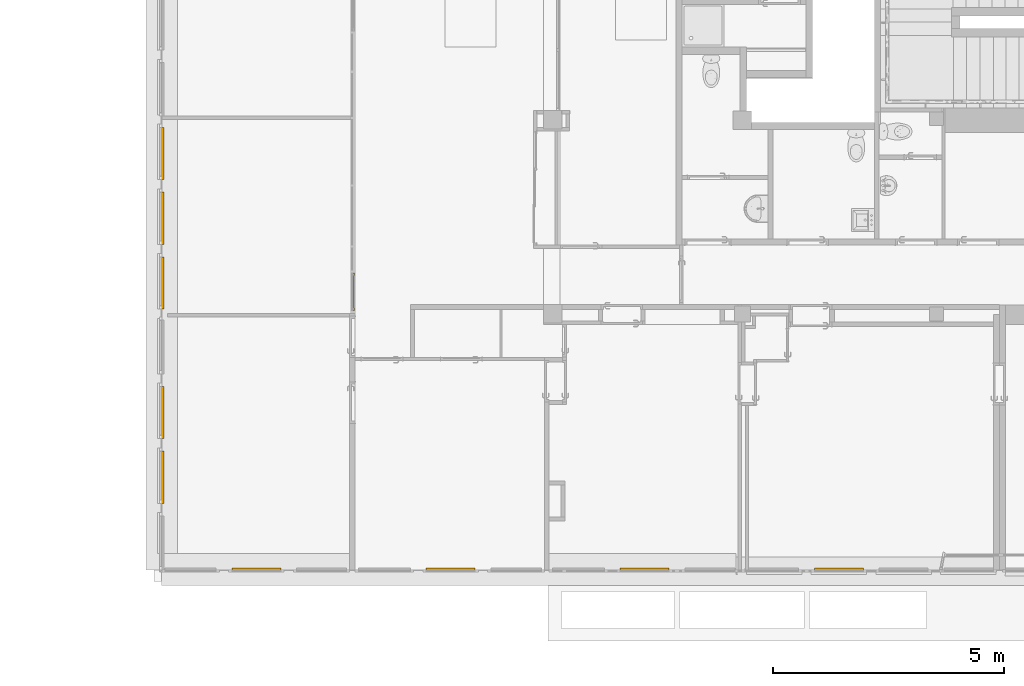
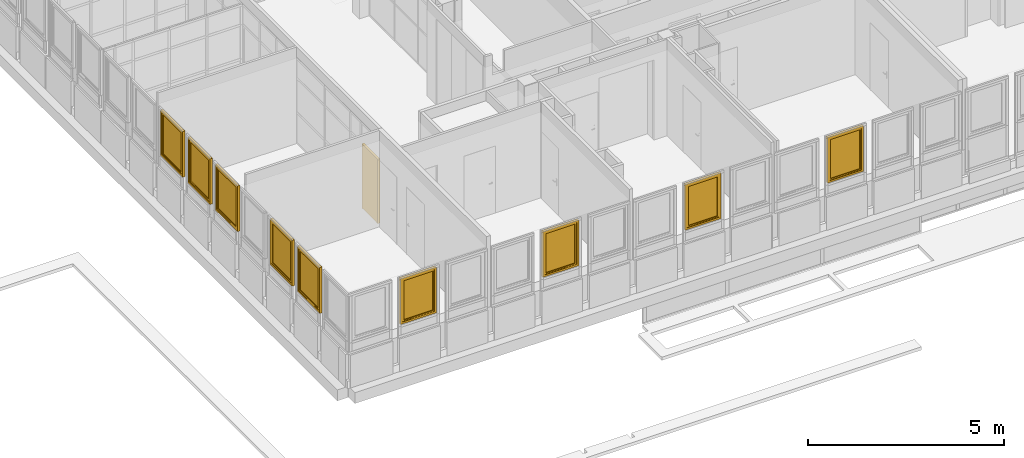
# One storey, part 84 of 97: 9 windows, 1 door, 10 elements without a shape of their own.
"""IFC4 building model written with IfcOpenShell, lengths in metres."""

import ifcopenshell
import ifcopenshell.guid

model = None  # the IFC model being written
_history = None  # IfcOwnerHistory: only IFC2X3 demands one
_inside = {}  # id of a spatial element -> (the spatial element, [elements in it])
_under = {}  # id of a project, library or spatial element -> (it, [spatial elements below it])
_declared = {}  # id of a project -> (the project, [libraries it declares])
_typed = {}  # id of a type object -> (the type object, [elements of that type])
_made_of = {}  # id of a material, layer set ... -> (it, [elements and type objects made of it])


def new_model(schema):
    """Start an empty IFC model of exactly this schema.

    Asked for "IFC4X3", IfcOpenShell would pick the latest addendum, in which some entities
    have other attributes; the version numbers below select the first issue.
    IFC2X3 requires an IfcOwnerHistory on every rooted entity: one is made here for all.
    """
    global model, _history
    if schema == "IFC4X3":
        model = ifcopenshell.file(schema_version=(4, 3, 0, 0))
    else:
        model = ifcopenshell.file(schema=schema)
    _inside.clear()
    _under.clear()
    _declared.clear()
    _typed.clear()
    _made_of.clear()
    _history = None
    if model.schema == "IFC2X3":
        org = make("IfcOrganization", Name="unknown")
        user = make(
            "IfcPersonAndOrganization",
            ThePerson=make("IfcPerson", FamilyName="unknown"),
            TheOrganization=org,
        )
        app = make(
            "IfcApplication",
            ApplicationDeveloper=org,
            Version="unknown",
            ApplicationFullName="unknown",
            ApplicationIdentifier="unknown",
        )
        _history = make(
            "IfcOwnerHistory",
            OwningUser=user,
            OwningApplication=app,
            ChangeAction="ADDED",
            CreationDate=0,
        )
    return model


def make(cls, **values):
    """One entity of the class cls with the attributes given. An attribute that is None is left unset."""
    return model.create_entity(
        cls, **{name: value for name, value in values.items() if value is not None}
    )


def entity(cls, *values):
    """Any entity or typed value of the class cls, its attributes in the order of the schema. None: left unset."""
    e = model.create_entity(cls)
    for i, value in enumerate(values):
        if value is not None:
            e[i] = value
    return e


def rooted(cls, **values):
    """An entity with a GlobalId (a new one), such as an element, a storey or a relation."""
    return make(cls, GlobalId=ifcopenshell.guid.new(), OwnerHistory=_history, **values)


def si_unit(unit_type, name, prefix=None):
    """IfcSIUnit, for example si_unit("LENGTHUNIT", "METRE", prefix="MILLI")."""
    return make("IfcSIUnit", UnitType=unit_type, Prefix=prefix, Name=name)


def converted_unit(unit_type, name, factor, base, dimensions=None, offset=None):
    """IfcConversionBasedUnit, such as the inch: factor (a typed value) times the base unit."""
    return make(
        "IfcConversionBasedUnit"
        if offset is None
        else "IfcConversionBasedUnitWithOffset",
        ConversionOffset=offset,
        Dimensions=None
        if dimensions is None
        else entity("IfcDimensionalExponents", *dimensions),
        UnitType=unit_type,
        Name=name,
        ConversionFactor=make(
            "IfcMeasureWithUnit", ValueComponent=factor, UnitComponent=base
        ),
    )


def derived_unit(unit_type, elements):
    """IfcDerivedUnit: a product of units, each with its exponent."""
    return make(
        "IfcDerivedUnit",
        Elements=[
            make("IfcDerivedUnitElement", Unit=unit, Exponent=power)
            for unit, power in elements
        ],
        UnitType=unit_type,
    )


def assignment(units):
    """IfcUnitAssignment: the units of a project."""
    return None if units is None else make("IfcUnitAssignment", Units=units)


def point(xyz):
    """IfcCartesianPoint."""
    return None if xyz is None else make("IfcCartesianPoint", Coordinates=xyz)


def direction(xyz):
    """IfcDirection."""
    return None if xyz is None else make("IfcDirection", DirectionRatios=xyz)


def frame(location, z_axis=None, x_axis=None):
    """IfcAxis2Placement3D, a coordinate frame: its origin and axes. An axis left out is left unset."""
    return make(
        "IfcAxis2Placement3D",
        Location=point(location),
        Axis=direction(z_axis),
        RefDirection=direction(x_axis),
    )


def origin():
    """The frame at (0, 0, 0) with its axes left unset."""
    return frame((0.0, 0.0, 0.0))


def place(relative_to, where):
    """IfcLocalPlacement: puts the frame where relative to a parent placement (None: the world)."""
    return make(
        "IfcLocalPlacement", PlacementRelTo=relative_to, RelativePlacement=where
    )


def context(
    kind, dimensions, precision=None, world=None, true_north=None, identifier=None
):
    """IfcGeometricRepresentationContext, for example the 3D "Model" context."""
    return make(
        "IfcGeometricRepresentationContext",
        ContextIdentifier=identifier,
        ContextType=kind,
        CoordinateSpaceDimension=dimensions,
        Precision=precision,
        WorldCoordinateSystem=world,
        TrueNorth=true_north,
    )


def subcontext(parent, identifier, kind, view, scale=None):
    """IfcGeometricRepresentationSubContext, for example "Body" below "Model"."""
    return make(
        "IfcGeometricRepresentationSubContext",
        ContextIdentifier=identifier,
        ContextType=kind,
        ParentContext=parent,
        TargetScale=scale,
        TargetView=view,
    )


def project(units=None, contexts=None):
    """IfcProject with its units and contexts."""
    return rooted(
        "IfcProject",
        Name="project",
        RepresentationContexts=contexts,
        UnitsInContext=assignment(units),
    )


def spatial(cls, under=None, at=None, **own):
    """A site, building, storey or space (cls), placed at a placement, below another one or the project."""
    s = rooted(cls, ObjectPlacement=at, **own)
    if under is not None:
        _under.setdefault(under.id(), (under, []))[1].append(s)
    return s


def point_list(points):
    """IfcCartesianPointList2D or 3D."""
    cls = (
        "IfcCartesianPointList2D" if len(points[0]) == 2 else "IfcCartesianPointList3D"
    )
    return make(cls, CoordList=points)


def indexed_curve(points, segments=None, self_intersect=None):
    """IfcIndexedPolyCurve: lines and arcs through numbered points (the first is 1)."""
    return make(
        "IfcIndexedPolyCurve",
        Points=point_list(points),
        Segments=segments,
        SelfIntersect=self_intersect,
    )


def outline(outer, holes=None, kind="AREA"):
    """IfcArbitraryClosedProfileDef: a profile drawn as a closed curve; with holes, ...WithVoids."""
    if holes is None:
        return make("IfcArbitraryClosedProfileDef", ProfileType=kind, OuterCurve=outer)
    return make(
        "IfcArbitraryProfileDefWithVoids",
        ProfileType=kind,
        OuterCurve=outer,
        InnerCurves=holes,
    )


def extrude(swept, where, along, depth):
    """IfcExtrudedAreaSolid: the profile swept, set in the frame where, extruded along a direction by depth."""
    return make(
        "IfcExtrudedAreaSolid",
        SweptArea=swept,
        Position=where,
        ExtrudedDirection=direction(along),
        Depth=depth,
    )


def polygons(points, faces, closed=None, point_numbers=None):
    """IfcPolygonalFaceSet: a face is its outer loop, then its inner loops; points numbered from 1."""
    made = []
    for loops in faces:
        if len(loops) == 1:
            made.append(make("IfcIndexedPolygonalFace", CoordIndex=loops[0]))
        else:
            made.append(
                make(
                    "IfcIndexedPolygonalFaceWithVoids",
                    CoordIndex=loops[0],
                    InnerCoordIndices=loops[1:],
                )
            )
    return make(
        "IfcPolygonalFaceSet",
        Coordinates=point_list(points),
        Closed=closed,
        Faces=made,
        PnIndex=point_numbers,
    )


def shape(context_of_items, identifier, shape_type, items):
    """IfcShapeRepresentation: the items that make up one representation, for example the "Body"."""
    return make(
        "IfcShapeRepresentation",
        ContextOfItems=context_of_items,
        RepresentationIdentifier=identifier,
        RepresentationType=shape_type,
        Items=items,
    )


def source(mapping_origin, context_of_items, identifier, shape_type, items):
    """IfcRepresentationMap: a shape defined once, which mapped items show again and again."""
    return make(
        "IfcRepresentationMap",
        MappingOrigin=mapping_origin,
        MappedRepresentation=shape(context_of_items, identifier, shape_type, items),
    )


def transform(
    local_origin,
    x_axis=None,
    y_axis=None,
    z_axis=None,
    scale=None,
    scale2=None,
    scale3=None,
    uniform=True,
):
    """IfcCartesianTransformationOperator3D, or its non-uniform kind. x_axis, y_axis, z_axis: its Axis1, 2, 3."""
    if uniform:
        return make(
            "IfcCartesianTransformationOperator3D",
            Axis1=direction(x_axis),
            Axis2=direction(y_axis),
            LocalOrigin=point(local_origin),
            Scale=scale,
            Axis3=direction(z_axis),
        )
    return make(
        "IfcCartesianTransformationOperator3DnonUniform",
        Axis1=direction(x_axis),
        Axis2=direction(y_axis),
        LocalOrigin=point(local_origin),
        Scale=scale,
        Axis3=direction(z_axis),
        Scale2=scale2,
        Scale3=scale3,
    )


def mapped(mapping_source, mapping_target):
    """IfcMappedItem: shows the shape of a source again, moved by a transform."""
    return make(
        "IfcMappedItem", MappingSource=mapping_source, MappingTarget=mapping_target
    )


def material(Name=None, Category=None):
    """IfcMaterial."""
    return make("IfcMaterial", Name=Name, Category=Category)


def material_list(materials):
    """IfcMaterialList."""
    return make("IfcMaterialList", Materials=materials)


def constituent(of_material, Name=None, Category=None, fraction=None):
    """IfcMaterialConstituent: one of the materials an element consists of."""
    return make(
        "IfcMaterialConstituent",
        Name=Name,
        Material=of_material,
        Fraction=fraction,
        Category=Category,
    )


def constituent_set(constituents=None, Name=None):
    """IfcMaterialConstituentSet."""
    return make(
        "IfcMaterialConstituentSet", Name=Name, MaterialConstituents=constituents
    )


def made_of(thing, what):
    """Note that an element or type object is made of a material, layer set ...; save() writes the relation."""
    if what is not None:
        _made_of.setdefault(what.id(), (what, []))[1].append(thing)
    return thing


def type_object(cls, material=None, **own):
    """A type object (cls), such as IfcWallType, which elements share."""
    return made_of(rooted(cls, **own), material)


def type_shapes(of_type, sources):
    """Give a type object the sources (RepresentationMaps) that its elements show as mapped items."""
    of_type.RepresentationMaps = sources


def element(
    cls,
    number,
    at=None,
    inside=None,
    cuts=None,
    type_object=None,
    material=None,
    context=None,
    identifier="Body",
    shape_type=None,
    held_by="IfcProductDefinitionShape",
    body=None,
    shapes=None,
    **own,
):
    """One element of the class cls, such as IfcWall. Its Tag is "e" and its number.

    at: its placement. inside: the storey or other place that contains it. cuts: it is an
    opening in that element (IfcRelVoidsElement). A single representation is given by context,
    identifier, shape_type and body (its items); several are given by shapes. held_by: the class
    of the entity that holds the representations. save() writes the other relations.
    """
    e = rooted(cls, Tag="e%d" % number, ObjectPlacement=at, **own)
    if body is not None:
        shapes = [shape(context, identifier, shape_type, body)]
    if shapes is not None:
        e.Representation = make(held_by, Representations=shapes)
    if inside is not None:
        _inside.setdefault(inside.id(), (inside, []))[1].append(e)
    if cuts is not None:
        rooted(
            "IfcRelVoidsElement", RelatingBuildingElement=cuts, RelatedOpeningElement=e
        )
    if type_object is not None:
        _typed.setdefault(type_object.id(), (type_object, []))[1].append(e)
    return made_of(e, material)


def aggregate(whole, parts):
    """IfcRelAggregates: a whole, such as a stair, and the parts it consists of."""
    return rooted("IfcRelAggregates", RelatingObject=whole, RelatedObjects=parts)


def save(model, path):
    """Write the relations noted so far, then the file.

    IfcRelAggregates (storeys below a building ...), IfcRelContainedInSpatialStructure (elements
    in a storey), IfcRelDefinesByType, IfcRelAssociatesMaterial and IfcRelDeclares: one each for
    every whole, place, type object, material and project.
    """
    for whole, parts in _under.values():
        aggregate(whole, parts)
    for where, things in _inside.values():
        rooted(
            "IfcRelContainedInSpatialStructure",
            RelatedElements=things,
            RelatingStructure=where,
        )
    for kind, things in _typed.values():
        rooted("IfcRelDefinesByType", RelatedObjects=things, RelatingType=kind)
    for what, things in _made_of.values():
        rooted("IfcRelAssociatesMaterial", RelatedObjects=things, RelatingMaterial=what)
    for by, libraries in _declared.values():
        rooted("IfcRelDeclares", RelatingContext=by, RelatedDefinitions=libraries)
    model.write(path)


model = new_model("IFC4")

# Units and contexts
model_context = context("Model", 3, precision=1e-05, world=origin(), true_north=direction((6.12303176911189e-17, 1.0)))
body_context = subcontext(model_context, "Body", "Model", "MODEL_VIEW")
ifc_project = project(units=[si_unit("LENGTHUNIT", "METRE"), si_unit("AREAUNIT", "SQUARE_METRE"), si_unit("VOLUMEUNIT", "CUBIC_METRE"), converted_unit("PLANEANGLEUNIT", "DEGREE", entity("IfcRatioMeasure", 0.0174532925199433), si_unit("PLANEANGLEUNIT", "RADIAN"), dimensions=[0, 0, 0, 0, 0, 0, 0]), si_unit("MASSUNIT", "GRAM", prefix="KILO"), derived_unit("MASSDENSITYUNIT", [(si_unit("MASSUNIT", "GRAM", prefix="KILO"), 1), (si_unit("LENGTHUNIT", "METRE"), -3)]), derived_unit("MOMENTOFINERTIAUNIT", [(si_unit("LENGTHUNIT", "METRE"), 4)]), si_unit("TIMEUNIT", "SECOND"), si_unit("FREQUENCYUNIT", "HERTZ"), si_unit("THERMODYNAMICTEMPERATUREUNIT", "DEGREE_CELSIUS"), derived_unit("THERMALTRANSMITTANCEUNIT", [(si_unit("MASSUNIT", "GRAM", prefix="KILO"), 1), (si_unit("THERMODYNAMICTEMPERATUREUNIT", "KELVIN"), -1), (si_unit("TIMEUNIT", "SECOND"), -3)]), derived_unit("VOLUMETRICFLOWRATEUNIT", [(si_unit("LENGTHUNIT", "METRE"), 3), (si_unit("TIMEUNIT", "SECOND"), -1)]), si_unit("ELECTRICCURRENTUNIT", "AMPERE"), si_unit("ELECTRICVOLTAGEUNIT", "VOLT"), si_unit("POWERUNIT", "WATT"), si_unit("FORCEUNIT", "NEWTON", prefix="KILO"), si_unit("ILLUMINANCEUNIT", "LUX"), si_unit("LUMINOUSFLUXUNIT", "LUMEN"), si_unit("LUMINOUSINTENSITYUNIT", "CANDELA"), derived_unit("USERDEFINED", [(si_unit("MASSUNIT", "GRAM", prefix="KILO"), -1), (si_unit("LENGTHUNIT", "METRE"), -2), (si_unit("TIMEUNIT", "SECOND"), 3), (si_unit("LUMINOUSFLUXUNIT", "LUMEN"), 1)]), derived_unit("LINEARVELOCITYUNIT", [(si_unit("LENGTHUNIT", "METRE"), 1), (si_unit("TIMEUNIT", "SECOND"), -1)]), si_unit("PRESSUREUNIT", "PASCAL"), derived_unit("USERDEFINED", [(si_unit("LENGTHUNIT", "METRE"), -2), (si_unit("MASSUNIT", "GRAM", prefix="KILO"), 1), (si_unit("TIMEUNIT", "SECOND"), -2)]), derived_unit("LINEARFORCEUNIT", [(si_unit("MASSUNIT", "GRAM", prefix="KILO"), 1), (si_unit("LENGTHUNIT", "METRE"), 1), (si_unit("TIMEUNIT", "SECOND"), -2), (si_unit("LENGTHUNIT", "METRE"), -1)]), derived_unit("PLANARFORCEUNIT", [(si_unit("MASSUNIT", "GRAM", prefix="KILO"), 1), (si_unit("LENGTHUNIT", "METRE"), 1), (si_unit("TIMEUNIT", "SECOND"), -2), (si_unit("LENGTHUNIT", "METRE"), -2)])], contexts=[model_context])

# Site, building, storey
site_placement = place(None, origin())
site = spatial("IfcSite", under=ifc_project, at=site_placement, Name="Default", CompositionType="ELEMENT")
building_placement = place(site_placement, origin())
building = spatial("IfcBuilding", under=site, at=building_placement, Name="HOTEL CONSULAIRE BOULOGNE SUR MER", CompositionType="ELEMENT")
storey_placement = place(building_placement, frame((0.0, 0.0, 3.62152697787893)))
storey = spatial("IfcBuildingStorey", under=building, at=storey_placement, Name="Niveau 1", CompositionType="ELEMENT", Elevation=3.62152697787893)

# Curtain wall, window
curtain_wall_type = type_object("IfcCurtainWallType", Name="Mur-rideau:Simple panneau", PredefinedType="NOTDEFINED")
curtain_wall_1_placement = place(storey_placement, frame((0.0, 0.0, -3.62152697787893)))
curtain_wall_1 = element("IfcCurtainWall", 1, at=curtain_wall_1_placement, inside=storey, type_object=curtain_wall_type, Name="Mur-rideau:Simple panneau", ObjectType="Mur-rideau:Simple panneau", PredefinedType="NOTDEFINED")
ifc_material_1 = material(Name="PVC - Blanc", Category="Plastique")
ifc_constituent_1 = constituent(ifc_material_1, Name="PVC - Blanc", Category="Matériaux")
ifc_material_2 = material(Name="Fenêtre - Vitrage", Category="Verre")
ifc_constituent_2 = constituent(ifc_material_2, Name="Fenêtre - Vitrage", Category="Matériaux")
ifc_constituent_set_1 = constituent_set(constituents=[ifc_constituent_1, ifc_constituent_2], Name="MaterialConstituentSet")
ifc_material_list_1 = material_list([ifc_material_1, ifc_material_1])
window_type_1 = type_object("IfcWindowType", Name="MR 1 Vantail:MR 1 Vantail", PartitioningType="NOTDEFINED", PredefinedType="WINDOW", material=ifc_material_list_1)
shared_shape_1 = source(origin(), body_context, "Body", "Tessellation", [
    polygons([(-0.495646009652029, -0.0492408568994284, 0.472033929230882), (-0.484353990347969, -0.0492408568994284, 0.472033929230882), (-0.482966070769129, -0.0492408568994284, 0.470646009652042), (-0.482966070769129, -0.0492408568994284, 0.459332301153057), (-0.484332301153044, -0.0492408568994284, 0.457966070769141), (-0.495667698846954, -0.0492408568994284, 0.457966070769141), (-0.497033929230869, -0.0492408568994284, 0.459332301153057), (-0.497033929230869, -0.0492408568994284, 0.470646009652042), (-0.497033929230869, -0.0615795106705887, 0.470646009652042), (-0.495646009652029, -0.0621544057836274, 0.472033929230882), (-0.497033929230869, -0.0568932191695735, 0.459332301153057), (-0.497033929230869, -0.0635731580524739, 0.452652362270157), (-0.497033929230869, -0.0635731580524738, 0.370000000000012), (-0.497033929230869, -0.0748868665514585, 0.370000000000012), (-0.497033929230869, -0.0748868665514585, 0.457338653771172), (-0.495667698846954, -0.0563273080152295, 0.457966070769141), (-0.484332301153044, -0.0563273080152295, 0.457966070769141), (-0.482966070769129, -0.0568932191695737, 0.459332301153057), (-0.482966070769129, -0.0615795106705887, 0.470646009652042), (-0.482966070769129, -0.0748868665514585, 0.457338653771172), (-0.482966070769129, -0.0748868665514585, 0.370000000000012), (-0.482966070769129, -0.0635731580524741, 0.370000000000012), (-0.482966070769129, -0.0635731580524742, 0.452652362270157), (-0.484353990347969, -0.0621544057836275, 0.472033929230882), (-0.495646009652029, -0.0762747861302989, 0.457913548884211), (-0.495667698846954, -0.0622069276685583, 0.452086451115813), (-0.484332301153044, -0.0622069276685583, 0.452086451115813), (-0.484353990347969, -0.0762747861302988, 0.457913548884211), (-0.495646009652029, -0.0762747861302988, 0.370000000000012), (-0.495667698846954, -0.0622069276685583, 0.370000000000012), (-0.484332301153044, -0.0622069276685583, 0.370000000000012), (-0.484353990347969, -0.0762747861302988, 0.370000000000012)], [[[6, 7, 8, 1, 2, 3, 4, 5]], [[30, 26, 27, 31]], [[9, 10, 1, 8]], [[11, 12, 13, 14, 15, 9, 8, 7]], [[16, 11, 7, 6]], [[16, 6, 5, 17]], [[31, 22, 21, 32, 29, 14, 13, 30]], [[17, 5, 4, 18]], [[3, 19, 20, 21, 22, 23, 18, 4]], [[19, 3, 2, 24]], [[24, 2, 1, 10]], [[15, 25, 10, 9]], [[26, 12, 11, 16]], [[27, 26, 16, 17]], [[27, 17, 18, 23]], [[20, 19, 24, 28]], [[28, 24, 10, 25]], [[29, 25, 15, 14]], [[13, 12, 26, 30]], [[22, 31, 27, 23]], [[32, 21, 20, 28]], [[32, 28, 25, 29]]], closed=True),
    polygons([(-0.497000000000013, -0.0432408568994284, 0.490000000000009), (-0.482999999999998, -0.0432408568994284, 0.490000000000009), (-0.477999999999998, -0.0432408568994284, 0.48500000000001), (-0.477999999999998, -0.0432408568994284, 0.414999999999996), (-0.482999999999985, -0.0432408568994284, 0.410000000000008), (-0.497000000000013, -0.0432408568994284, 0.410000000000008), (-0.501999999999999, -0.0432408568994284, 0.414999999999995), (-0.501999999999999, -0.0432408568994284, 0.48500000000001), (-0.497000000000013, -0.0492408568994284, 0.490000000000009), (-0.501999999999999, -0.0492408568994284, 0.48500000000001), (-0.501999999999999, -0.0492408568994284, 0.414999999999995), (-0.497000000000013, -0.0492408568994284, 0.410000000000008), (-0.482999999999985, -0.0492408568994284, 0.410000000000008), (-0.477999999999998, -0.0492408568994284, 0.414999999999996), (-0.477999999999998, -0.0492408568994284, 0.48500000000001), (-0.482999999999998, -0.0492408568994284, 0.490000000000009)], [[[2, 3, 4, 5, 6, 7, 8, 1]], [[13, 14, 15, 16, 9, 10, 11, 12]], [[9, 1, 8, 10]], [[10, 8, 7, 11]], [[11, 7, 6, 12]], [[12, 6, 5, 13]], [[13, 5, 4, 14]], [[15, 14, 4, 3]], [[15, 3, 2, 16]], [[16, 2, 1, 9]]], closed=True),
    polygons([(0.465000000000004, -0.0192408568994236, 1.32586048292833), (-0.465000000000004, -0.0192408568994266, 1.32586048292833), (-0.465000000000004, -0.0192408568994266, 0.0999999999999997), (0.465000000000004, -0.0192408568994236, 0.0999999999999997), (0.465000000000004, -0.00724085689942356, 1.32586048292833), (0.465000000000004, -0.00724085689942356, 0.0999999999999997), (-0.465000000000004, -0.00724085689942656, 0.0999999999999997), (-0.465000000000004, -0.00724085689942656, 1.32586048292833)], [[[4, 1, 2, 3]], [[7, 8, 5, 6]], [[2, 1, 5, 8]], [[3, 2, 8, 7]], [[4, 3, 7, 6]], [[1, 4, 6, 5]]], closed=True),
    polygons([(-0.515000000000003, 0.0167591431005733, 1.37586048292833), (-0.515000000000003, -0.043240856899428, 1.37586048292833), (0.515000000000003, -0.043240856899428, 1.37586048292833), (0.515000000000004, 0.0167591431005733, 1.37586048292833), (-0.465000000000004, -0.043240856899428, 1.32586048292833), (-0.465000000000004, 0.0167591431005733, 1.32586048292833), (0.465000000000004, 0.0167591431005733, 1.32586048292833), (0.465000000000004, -0.043240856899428, 1.32586048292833), (0.515000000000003, -0.043240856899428, 0.0500000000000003), (0.515000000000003, 0.0167591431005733, 0.0500000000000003), (0.465000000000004, 0.0167591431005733, 0.0999999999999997), (0.465000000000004, -0.043240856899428, 0.0999999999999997), (-0.515000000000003, -0.043240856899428, 0.0500000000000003), (-0.515000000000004, 0.0167591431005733, 0.0500000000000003), (-0.465000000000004, 0.0167591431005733, 0.0999999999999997), (-0.465000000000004, -0.043240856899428, 0.0999999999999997)], [[[1, 2, 3, 4]], [[12, 11, 15, 16]], [[5, 6, 7, 8]], [[10, 9, 13, 14]], [[4, 3, 9, 10]], [[16, 15, 6, 5]], [[8, 7, 11, 12]], [[14, 13, 2, 1]], [[9, 3, 2, 13], [16, 5, 8, 12]], [[14, 1, 4, 10], [11, 7, 6, 15]]], closed=True),
    polygons([(-0.505000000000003, 0.016759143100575, 1.36586048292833), (-0.505000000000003, 0.0267591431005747, 1.36586048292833), (0.505000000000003, 0.0267591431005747, 1.36586048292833), (0.505000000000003, 0.016759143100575, 1.36586048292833), (-0.515000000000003, -0.0432408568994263, 1.37586048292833), (-0.515000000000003, 0.016759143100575, 1.37586048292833), (0.515000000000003, 0.016759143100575, 1.37586048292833), (0.515000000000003, -0.0432408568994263, 1.37586048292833), (-0.565000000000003, 0.0267591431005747, 1.42586048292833), (-0.565000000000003, -0.0432408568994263, 1.42586048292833), (0.565000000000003, -0.0432408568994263, 1.42586048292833), (0.565000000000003, 0.0267591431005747, 1.42586048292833), (0.505000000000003, 0.0267591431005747, 0.0600000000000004), (0.505000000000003, 0.016759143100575, 0.0600000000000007), (0.515000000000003, 0.016759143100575, 0.0500000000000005), (0.515000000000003, -0.0432408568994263, 0.0500000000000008), (0.565000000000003, -0.0432408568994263, 5.41433564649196e-16), (0.565000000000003, 0.0267591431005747, 5.41433564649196e-16), (-0.505000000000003, 0.0267591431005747, 0.0600000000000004), (-0.505000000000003, 0.016759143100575, 0.0600000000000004), (-0.515000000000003, 0.016759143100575, 0.0500000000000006), (-0.515000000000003, -0.0432408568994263, 0.0500000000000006), (-0.565000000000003, -0.0432408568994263, 5.41433564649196e-16), (-0.565000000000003, 0.0267591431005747, 5.41433564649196e-16)], [[[1, 2, 3, 4]], [[5, 6, 7, 8]], [[18, 17, 23, 24]], [[9, 10, 11, 12]], [[14, 13, 19, 20]], [[16, 15, 21, 22]], [[4, 3, 13, 14]], [[8, 7, 15, 16]], [[24, 23, 10, 9]], [[12, 11, 17, 18]], [[20, 19, 2, 1]], [[22, 21, 6, 5]], [[24, 9, 12, 18], [13, 3, 2, 19]], [[15, 7, 6, 21], [20, 1, 4, 14]], [[17, 11, 10, 23], [22, 5, 8, 16]]], closed=True),
])
type_shapes(window_type_1, [shared_shape_1])
window_1_placement = place(curtain_wall_1_placement, frame((-13.7870998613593, -20.5464499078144, 4.79613951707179), z_axis=(0.0, 0.0, 1.0), x_axis=(0.0, 1.0, 0.0)))
window_1 = element("IfcWindow", 2, at=window_1_placement, type_object=window_type_1, material=ifc_constituent_set_1, Name="MR 1 Vantail:MR 1 Vantail", ObjectType="MR 1 Vantail:MR 1 Vantail", OverallHeight=1.42586048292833, OverallWidth=1.13000000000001, PartitioningType="NOTDEFINED", PredefinedType="WINDOW", context=body_context, shape_type="MappedRepresentation", body=[
    mapped(shared_shape_1, transform((0.0, 0.0, 0.0), scale=1.0)),
])
aggregate(curtain_wall_1, [window_1])

curtain_wall_2_placement = place(storey_placement, frame((0.0, 0.0, -3.62152697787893)))
curtain_wall_2 = element("IfcCurtainWall", 3, at=curtain_wall_2_placement, inside=storey, type_object=curtain_wall_type, Name="Mur-rideau:Simple panneau", ObjectType="Mur-rideau:Simple panneau", PredefinedType="NOTDEFINED")
ifc_constituent_3 = constituent(ifc_material_1, Name="PVC - Blanc", Category="Matériaux")
ifc_constituent_4 = constituent(ifc_material_2, Name="Fenêtre - Vitrage", Category="Matériaux")
ifc_constituent_set_2 = constituent_set(constituents=[ifc_constituent_3, ifc_constituent_4], Name="MaterialConstituentSet")
window_2_placement = place(curtain_wall_2_placement, frame((-13.7870998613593, -21.9464499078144, 4.79613951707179), z_axis=(0.0, 0.0, 1.0), x_axis=(0.0, 1.0, 0.0)))
window_2 = element("IfcWindow", 4, at=window_2_placement, type_object=window_type_1, material=ifc_constituent_set_2, Name="MR 1 Vantail:MR 1 Vantail", ObjectType="MR 1 Vantail:MR 1 Vantail", OverallHeight=1.42586048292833, OverallWidth=1.13000000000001, PartitioningType="NOTDEFINED", PredefinedType="WINDOW", context=body_context, shape_type="MappedRepresentation", body=[
    mapped(shared_shape_1, transform((0.0, 0.0, 0.0), scale=1.0)),
])
aggregate(curtain_wall_2, [window_2])

curtain_wall_3_placement = place(storey_placement, frame((0.0, 0.0, -3.62152697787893)))
curtain_wall_3 = element("IfcCurtainWall", 5, at=curtain_wall_3_placement, inside=storey, type_object=curtain_wall_type, Name="Mur-rideau:Simple panneau", ObjectType="Mur-rideau:Simple panneau", PredefinedType="NOTDEFINED")
ifc_constituent_5 = constituent(ifc_material_1, Name="PVC - Blanc", Category="Matériaux")
ifc_constituent_6 = constituent(ifc_material_2, Name="Fenêtre - Vitrage", Category="Matériaux")
ifc_constituent_set_3 = constituent_set(constituents=[ifc_constituent_5, ifc_constituent_6], Name="MaterialConstituentSet")
window_3_placement = place(curtain_wall_3_placement, frame((-13.7870998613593, -23.3464499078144, 4.79613951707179), z_axis=(0.0, 0.0, 1.0), x_axis=(0.0, 1.0, 0.0)))
window_3 = element("IfcWindow", 6, at=window_3_placement, type_object=window_type_1, material=ifc_constituent_set_3, Name="MR 1 Vantail:MR 1 Vantail", ObjectType="MR 1 Vantail:MR 1 Vantail", OverallHeight=1.42586048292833, OverallWidth=1.13000000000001, PartitioningType="NOTDEFINED", PredefinedType="WINDOW", context=body_context, shape_type="MappedRepresentation", body=[
    mapped(shared_shape_1, transform((0.0, 0.0, 0.0), scale=1.0)),
])
aggregate(curtain_wall_3, [window_3])

curtain_wall_4_placement = place(storey_placement, frame((0.0, 0.0, -3.62152697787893)))
curtain_wall_4 = element("IfcCurtainWall", 7, at=curtain_wall_4_placement, inside=storey, type_object=curtain_wall_type, Name="Mur-rideau:Simple panneau", ObjectType="Mur-rideau:Simple panneau", PredefinedType="NOTDEFINED")
ifc_constituent_7 = constituent(ifc_material_1, Name="PVC - Blanc", Category="Matériaux")
ifc_constituent_8 = constituent(ifc_material_2, Name="Fenêtre - Vitrage", Category="Matériaux")
ifc_constituent_set_4 = constituent_set(constituents=[ifc_constituent_7, ifc_constituent_8], Name="MaterialConstituentSet")
window_4_placement = place(curtain_wall_4_placement, frame((-13.7870998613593, -26.1464499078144, 4.79613951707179), z_axis=(0.0, 0.0, 1.0), x_axis=(0.0, 1.0, 0.0)))
window_4 = element("IfcWindow", 8, at=window_4_placement, type_object=window_type_1, material=ifc_constituent_set_4, Name="MR 1 Vantail:MR 1 Vantail", ObjectType="MR 1 Vantail:MR 1 Vantail", OverallHeight=1.42586048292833, OverallWidth=1.13000000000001, PartitioningType="NOTDEFINED", PredefinedType="WINDOW", context=body_context, shape_type="MappedRepresentation", body=[
    mapped(shared_shape_1, transform((0.0, 0.0, 0.0), scale=1.0)),
])
aggregate(curtain_wall_4, [window_4])

curtain_wall_5_placement = place(storey_placement, frame((0.0, 0.0, -3.62152697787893)))
curtain_wall_5 = element("IfcCurtainWall", 9, at=curtain_wall_5_placement, inside=storey, type_object=curtain_wall_type, Name="Mur-rideau:Simple panneau", ObjectType="Mur-rideau:Simple panneau", PredefinedType="NOTDEFINED")
ifc_constituent_9 = constituent(ifc_material_1, Name="PVC - Blanc", Category="Matériaux")
ifc_constituent_10 = constituent(ifc_material_2, Name="Fenêtre - Vitrage", Category="Matériaux")
ifc_constituent_set_5 = constituent_set(constituents=[ifc_constituent_9, ifc_constituent_10], Name="MaterialConstituentSet")
window_5_placement = place(curtain_wall_5_placement, frame((-13.7870998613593, -27.5464499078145, 4.79613951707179), z_axis=(0.0, 0.0, 1.0), x_axis=(0.0, 1.0, 0.0)))
window_5 = element("IfcWindow", 10, at=window_5_placement, type_object=window_type_1, material=ifc_constituent_set_5, Name="MR 1 Vantail:MR 1 Vantail", ObjectType="MR 1 Vantail:MR 1 Vantail", OverallHeight=1.42586048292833, OverallWidth=1.13000000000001, PartitioningType="NOTDEFINED", PredefinedType="WINDOW", context=body_context, shape_type="MappedRepresentation", body=[
    mapped(shared_shape_1, transform((0.0, 0.0, 0.0), scale=1.0)),
])
aggregate(curtain_wall_5, [window_5])

curtain_wall_6_placement = place(storey_placement, frame((0.0, 0.0, -3.62152697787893)))
curtain_wall_6 = element("IfcCurtainWall", 11, at=curtain_wall_6_placement, inside=storey, type_object=curtain_wall_type, Name="Mur-rideau:Simple panneau", ObjectType="Mur-rideau:Simple panneau", PredefinedType="NOTDEFINED")
ifc_constituent_11 = constituent(ifc_material_1, Name="PVC - Blanc", Category="Matériaux")
ifc_constituent_12 = constituent(ifc_material_2, Name="Fenêtre - Vitrage", Category="Matériaux")
ifc_constituent_set_6 = constituent_set(constituents=[ifc_constituent_11, ifc_constituent_12], Name="MaterialConstituentSet")
ifc_material_list_2 = material_list([ifc_material_1, ifc_material_1])
window_type_2 = type_object("IfcWindowType", Name="MR 1 Vantail:MR 1 Vantail", PartitioningType="NOTDEFINED", PredefinedType="WINDOW", material=ifc_material_list_2)
shared_shape_2 = source(origin(), body_context, "Body", "Tessellation", [
    polygons([(-0.460646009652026, -0.0492408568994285, 0.472033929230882), (-0.449353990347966, -0.0492408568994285, 0.472033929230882), (-0.447966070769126, -0.0492408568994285, 0.470646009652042), (-0.447966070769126, -0.0492408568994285, 0.459332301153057), (-0.449332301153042, -0.0492408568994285, 0.457966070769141), (-0.460667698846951, -0.0492408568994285, 0.457966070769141), (-0.462033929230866, -0.0492408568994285, 0.459332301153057), (-0.462033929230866, -0.0492408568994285, 0.470646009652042), (-0.462033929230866, -0.0615795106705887, 0.470646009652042), (-0.460646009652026, -0.0621544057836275, 0.472033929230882), (-0.462033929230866, -0.0568932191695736, 0.459332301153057), (-0.462033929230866, -0.063573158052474, 0.452652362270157), (-0.462033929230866, -0.0635731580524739, 0.370000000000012), (-0.462033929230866, -0.0748868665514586, 0.370000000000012), (-0.462033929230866, -0.0748868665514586, 0.457338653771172), (-0.460667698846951, -0.0563273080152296, 0.457966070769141), (-0.449332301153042, -0.0563273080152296, 0.457966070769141), (-0.447966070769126, -0.0568932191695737, 0.459332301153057), (-0.447966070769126, -0.0615795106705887, 0.470646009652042), (-0.447966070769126, -0.0748868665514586, 0.457338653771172), (-0.447966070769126, -0.0748868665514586, 0.370000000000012), (-0.447966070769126, -0.0635731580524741, 0.370000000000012), (-0.447966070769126, -0.0635731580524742, 0.452652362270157), (-0.449353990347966, -0.0621544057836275, 0.472033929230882), (-0.460646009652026, -0.0762747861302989, 0.457913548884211), (-0.460667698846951, -0.0622069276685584, 0.452086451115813), (-0.449332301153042, -0.0622069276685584, 0.452086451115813), (-0.449353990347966, -0.0762747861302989, 0.457913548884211), (-0.460646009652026, -0.0762747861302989, 0.370000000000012), (-0.460667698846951, -0.0622069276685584, 0.370000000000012), (-0.449332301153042, -0.0622069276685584, 0.370000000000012), (-0.449353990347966, -0.0762747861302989, 0.370000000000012)], [[[6, 7, 8, 1, 2, 3, 4, 5]], [[30, 26, 27, 31]], [[9, 10, 1, 8]], [[11, 12, 13, 14, 15, 9, 8, 7]], [[16, 11, 7, 6]], [[16, 6, 5, 17]], [[31, 22, 21, 32, 29, 14, 13, 30]], [[17, 5, 4, 18]], [[3, 19, 20, 21, 22, 23, 18, 4]], [[19, 3, 2, 24]], [[24, 2, 1, 10]], [[15, 25, 10, 9]], [[26, 12, 11, 16]], [[27, 26, 16, 17]], [[27, 17, 18, 23]], [[20, 19, 24, 28]], [[28, 24, 10, 25]], [[29, 25, 15, 14]], [[13, 12, 26, 30]], [[22, 31, 27, 23]], [[32, 21, 20, 28]], [[32, 28, 25, 29]]], closed=True),
    polygons([(-0.46200000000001, -0.0432408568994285, 0.490000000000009), (-0.447999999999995, -0.0432408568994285, 0.490000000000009), (-0.442999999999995, -0.0432408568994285, 0.48500000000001), (-0.442999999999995, -0.0432408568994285, 0.414999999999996), (-0.447999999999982, -0.0432408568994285, 0.410000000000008), (-0.46200000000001, -0.0432408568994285, 0.410000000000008), (-0.466999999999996, -0.0432408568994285, 0.414999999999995), (-0.466999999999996, -0.0432408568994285, 0.48500000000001), (-0.46200000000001, -0.0492408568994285, 0.490000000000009), (-0.466999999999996, -0.0492408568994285, 0.48500000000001), (-0.466999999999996, -0.0492408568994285, 0.414999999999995), (-0.46200000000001, -0.0492408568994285, 0.410000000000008), (-0.447999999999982, -0.0492408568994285, 0.410000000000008), (-0.442999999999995, -0.0492408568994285, 0.414999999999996), (-0.442999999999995, -0.0492408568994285, 0.48500000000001), (-0.447999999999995, -0.0492408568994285, 0.490000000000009)], [[[2, 3, 4, 5, 6, 7, 8, 1]], [[13, 14, 15, 16, 9, 10, 11, 12]], [[9, 1, 8, 10]], [[10, 8, 7, 11]], [[11, 7, 6, 12]], [[12, 6, 5, 13]], [[13, 5, 4, 14]], [[15, 14, 4, 3]], [[15, 3, 2, 16]], [[16, 2, 1, 9]]], closed=True),
    polygons([(0.430000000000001, -0.0192408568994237, 1.32586048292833), (-0.430000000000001, -0.0192408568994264, 1.32586048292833), (-0.430000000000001, -0.0192408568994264, 0.1), (0.430000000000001, -0.0192408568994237, 0.1), (0.430000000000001, -0.00724085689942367, 1.32586048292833), (0.430000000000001, -0.00724085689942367, 0.1), (-0.430000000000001, -0.00724085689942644, 0.1), (-0.430000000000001, -0.00724085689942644, 1.32586048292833)], [[[4, 1, 2, 3]], [[7, 8, 5, 6]], [[2, 1, 5, 8]], [[3, 2, 8, 7]], [[4, 3, 7, 6]], [[1, 4, 6, 5]]], closed=True),
    polygons([(-0.480000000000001, 0.0167591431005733, 1.37586048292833), (-0.480000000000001, -0.043240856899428, 1.37586048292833), (0.480000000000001, -0.043240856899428, 1.37586048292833), (0.48, 0.0167591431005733, 1.37586048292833), (-0.430000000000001, -0.043240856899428, 1.32586048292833), (-0.430000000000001, 0.0167591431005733, 1.32586048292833), (0.430000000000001, 0.0167591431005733, 1.32586048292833), (0.430000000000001, -0.043240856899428, 1.32586048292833), (0.48, -0.043240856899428, 0.0500000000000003), (0.48, 0.0167591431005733, 0.0500000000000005), (0.430000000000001, 0.0167591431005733, 0.1), (0.430000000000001, -0.043240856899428, 0.1), (-0.480000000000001, -0.043240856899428, 0.0500000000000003), (-0.480000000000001, 0.0167591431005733, 0.0500000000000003), (-0.430000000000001, 0.0167591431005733, 0.1), (-0.430000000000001, -0.043240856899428, 0.1)], [[[1, 2, 3, 4]], [[12, 11, 15, 16]], [[5, 6, 7, 8]], [[10, 9, 13, 14]], [[4, 3, 9, 10]], [[16, 15, 6, 5]], [[8, 7, 11, 12]], [[14, 13, 2, 1]], [[9, 3, 2, 13], [16, 5, 8, 12]], [[14, 1, 4, 10], [11, 7, 6, 15]]], closed=True),
    polygons([(-0.47, 0.016759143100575, 1.36586048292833), (-0.47, 0.0267591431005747, 1.36586048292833), (0.47, 0.0267591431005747, 1.36586048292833), (0.47, 0.016759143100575, 1.36586048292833), (-0.48, -0.0432408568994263, 1.37586048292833), (-0.48, 0.016759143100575, 1.37586048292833), (0.48, 0.016759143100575, 1.37586048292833), (0.48, -0.0432408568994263, 1.37586048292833), (-0.53, 0.0267591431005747, 1.42586048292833), (-0.53, -0.0432408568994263, 1.42586048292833), (0.53, -0.0432408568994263, 1.42586048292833), (0.53, 0.0267591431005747, 1.42586048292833), (0.47, 0.0267591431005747, 0.0600000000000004), (0.47, 0.016759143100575, 0.0600000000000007), (0.48, 0.016759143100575, 0.0500000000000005), (0.48, -0.0432408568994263, 0.0500000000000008), (0.53, -0.0432408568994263, 5.41433564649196e-16), (0.53, 0.0267591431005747, 5.41433564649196e-16), (-0.47, 0.0267591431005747, 0.0600000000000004), (-0.47, 0.016759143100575, 0.0600000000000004), (-0.48, 0.016759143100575, 0.0500000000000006), (-0.48, -0.0432408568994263, 0.0500000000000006), (-0.53, -0.0432408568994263, 5.41433564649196e-16), (-0.53, 0.0267591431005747, 5.41433564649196e-16)], [[[1, 2, 3, 4]], [[5, 6, 7, 8]], [[18, 17, 23, 24]], [[9, 10, 11, 12]], [[14, 13, 19, 20]], [[16, 15, 21, 22]], [[4, 3, 13, 14]], [[8, 7, 15, 16]], [[24, 23, 10, 9]], [[12, 11, 17, 18]], [[20, 19, 2, 1]], [[22, 21, 6, 5]], [[24, 9, 12, 18], [13, 3, 2, 19]], [[15, 7, 6, 21], [20, 1, 4, 14]], [[17, 11, 10, 23], [22, 5, 8, 16]]], closed=True),
])
type_shapes(window_type_2, [shared_shape_2])
window_6_placement = place(curtain_wall_6_placement, frame((-11.7414199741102, -29.5501047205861, 4.79613951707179), z_axis=(0.0, 0.0, 1.0), x_axis=(-1.0, 0.0, 0.0)))
window_6 = element("IfcWindow", 12, at=window_6_placement, type_object=window_type_2, material=ifc_constituent_set_6, Name="MR 1 Vantail:MR 1 Vantail", ObjectType="MR 1 Vantail:MR 1 Vantail", OverallHeight=1.42586048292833, OverallWidth=1.06, PartitioningType="NOTDEFINED", PredefinedType="WINDOW", context=body_context, shape_type="MappedRepresentation", body=[
    mapped(shared_shape_2, transform((0.0, 0.0, 0.0), scale=1.0)),
])
aggregate(curtain_wall_6, [window_6])

curtain_wall_7_placement = place(storey_placement, frame((0.0, 0.0, -3.62152697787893)))
curtain_wall_7 = element("IfcCurtainWall", 13, at=curtain_wall_7_placement, inside=storey, type_object=curtain_wall_type, Name="Mur-rideau:Simple panneau", ObjectType="Mur-rideau:Simple panneau", PredefinedType="NOTDEFINED")
ifc_constituent_13 = constituent(ifc_material_1, Name="PVC - Blanc", Category="Matériaux")
ifc_constituent_14 = constituent(ifc_material_2, Name="Fenêtre - Vitrage", Category="Matériaux")
ifc_constituent_set_7 = constituent_set(constituents=[ifc_constituent_13, ifc_constituent_14], Name="MaterialConstituentSet")
window_7_placement = place(curtain_wall_7_placement, frame((-7.54141997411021, -29.5501047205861, 4.79613951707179), z_axis=(0.0, 0.0, 1.0), x_axis=(-1.0, 0.0, 0.0)))
window_7 = element("IfcWindow", 14, at=window_7_placement, type_object=window_type_2, material=ifc_constituent_set_7, Name="MR 1 Vantail:MR 1 Vantail", ObjectType="MR 1 Vantail:MR 1 Vantail", OverallHeight=1.42586048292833, OverallWidth=1.06, PartitioningType="NOTDEFINED", PredefinedType="WINDOW", context=body_context, shape_type="MappedRepresentation", body=[
    mapped(shared_shape_2, transform((0.0, 0.0, 0.0), scale=1.0)),
])
aggregate(curtain_wall_7, [window_7])

curtain_wall_8_placement = place(storey_placement, frame((0.0, 0.0, -3.62152697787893)))
curtain_wall_8 = element("IfcCurtainWall", 15, at=curtain_wall_8_placement, inside=storey, type_object=curtain_wall_type, Name="Mur-rideau:Simple panneau", ObjectType="Mur-rideau:Simple panneau", PredefinedType="NOTDEFINED")
ifc_constituent_15 = constituent(ifc_material_1, Name="PVC - Blanc", Category="Matériaux")
ifc_constituent_16 = constituent(ifc_material_2, Name="Fenêtre - Vitrage", Category="Matériaux")
ifc_constituent_set_8 = constituent_set(constituents=[ifc_constituent_15, ifc_constituent_16], Name="MaterialConstituentSet")
window_8_placement = place(curtain_wall_8_placement, frame((-3.34141997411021, -29.5501047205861, 4.79613951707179), z_axis=(0.0, 0.0, 1.0), x_axis=(-1.0, 0.0, 0.0)))
window_8 = element("IfcWindow", 16, at=window_8_placement, type_object=window_type_2, material=ifc_constituent_set_8, Name="MR 1 Vantail:MR 1 Vantail", ObjectType="MR 1 Vantail:MR 1 Vantail", OverallHeight=1.42586048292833, OverallWidth=1.06, PartitioningType="NOTDEFINED", PredefinedType="WINDOW", context=body_context, shape_type="MappedRepresentation", body=[
    mapped(shared_shape_2, transform((0.0, 0.0, 0.0), scale=1.0)),
])
aggregate(curtain_wall_8, [window_8])

curtain_wall_9_placement = place(storey_placement, frame((0.0, 0.0, -3.62152697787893)))
curtain_wall_9 = element("IfcCurtainWall", 17, at=curtain_wall_9_placement, inside=storey, type_object=curtain_wall_type, Name="Mur-rideau:Simple panneau", ObjectType="Mur-rideau:Simple panneau", PredefinedType="NOTDEFINED")
ifc_constituent_17 = constituent(ifc_material_1, Name="PVC - Blanc", Category="Matériaux")
ifc_constituent_18 = constituent(ifc_material_2, Name="Fenêtre - Vitrage", Category="Matériaux")
ifc_constituent_set_9 = constituent_set(constituents=[ifc_constituent_17, ifc_constituent_18], Name="MaterialConstituentSet")
window_9_placement = place(curtain_wall_9_placement, frame((0.858580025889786, -29.5501047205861, 4.79613951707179), z_axis=(0.0, 0.0, 1.0), x_axis=(-1.0, 0.0, 0.0)))
window_9 = element("IfcWindow", 18, at=window_9_placement, type_object=window_type_2, material=ifc_constituent_set_9, Name="MR 1 Vantail:MR 1 Vantail", ObjectType="MR 1 Vantail:MR 1 Vantail", OverallHeight=1.42586048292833, OverallWidth=1.06, PartitioningType="NOTDEFINED", PredefinedType="WINDOW", context=body_context, shape_type="MappedRepresentation", body=[
    mapped(shared_shape_2, transform((0.0, 0.0, 0.0), scale=1.0)),
])
aggregate(curtain_wall_9, [window_9])

# Curtain wall, door
curtain_wall_10_placement = place(storey_placement, frame((0.0, 0.0, -3.62152697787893)))
curtain_wall_10 = element("IfcCurtainWall", 19, at=curtain_wall_10_placement, inside=storey, type_object=curtain_wall_type, Name="Mur-rideau:Simple panneau", ObjectType="Mur-rideau:Simple panneau", PredefinedType="NOTDEFINED")
ifc_material_3 = material(Name="PVC, souple", Category="Plastique")
ifc_constituent_19 = constituent(ifc_material_3, Name="PVC, souple", Category="Matériaux")
ifc_material_4 = material(Name="Verre", Category="Verre")
ifc_constituent_20 = constituent(ifc_material_4, Name="Verre", Category="Matériaux")
ifc_constituent_set_10 = constituent_set(constituents=[ifc_constituent_19, ifc_constituent_20], Name="MaterialConstituentSet")
ifc_material_5 = material(Name="Porte - Panneau", Category="Bois")
ifc_material_list_3 = material_list([ifc_material_3, ifc_material_5, ifc_material_4, ifc_material_3])
door_type = type_object("IfcDoorType", Name="Simple vitrée 2:Simple vitrée 2", OperationType="SINGLE_SWING_LEFT", PredefinedType="DOOR", material=ifc_material_list_3)
shared_shape_3 = source(origin(), body_context, "Body", "SweptSolid", [
    extrude(outline(indexed_curve([(-0.992980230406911, -0.403999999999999), (1.01798023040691, -0.403999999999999), (1.01798023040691, 0.403999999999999), (-0.992980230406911, 0.403999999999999), (-0.992980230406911, 0.353999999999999), (0.967980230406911, 0.353999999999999), (0.967980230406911, -0.353999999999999), (-0.992980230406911, -0.353999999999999), (-0.992980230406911, -0.403999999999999)], self_intersect=False)), frame((0.0, -0.025, 0.992980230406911), z_axis=(0.0, 1.0, 0.0), x_axis=(0.0, 0.0, 1.0)), (0.0, 0.0, 1.0), 0.07),
    extrude(outline(indexed_curve([(-0.0250000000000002, -0.353999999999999), (0.0249999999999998, -0.353999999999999), (0.0250000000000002, 0.353999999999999), (-0.0249999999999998, 0.353999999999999), (-0.0250000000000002, -0.353999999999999)], self_intersect=False)), frame((0.0, 0.00999999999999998, 0.0), z_axis=(0.0, 0.0, 1.0), x_axis=(0.0, 1.0, 0.0)), (0.0, 0.0, 1.0), 1.96096046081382),
])
type_shapes(door_type, [shared_shape_3])
door_placement = place(curtain_wall_10_placement, frame((-9.64962464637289, -23.5352596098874, 3.62152697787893), z_axis=(0.0, 0.0, 1.0), x_axis=(0.0, 1.0, 0.0)))
door = element("IfcDoor", 20, at=door_placement, type_object=door_type, material=ifc_constituent_set_10, Name="Simple vitrée 2:Simple vitrée 2", ObjectType="Simple vitrée 2:Simple vitrée 2", OperationType="SINGLE_SWING_LEFT", OverallHeight=2.01096046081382, OverallWidth=0.807999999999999, PredefinedType="DOOR", context=body_context, shape_type="MappedRepresentation", body=[
    mapped(shared_shape_3, transform((0.0, 0.0, 0.0), scale=1.0)),
])
aggregate(curtain_wall_10, [door])

save(model, "model.ifc")
